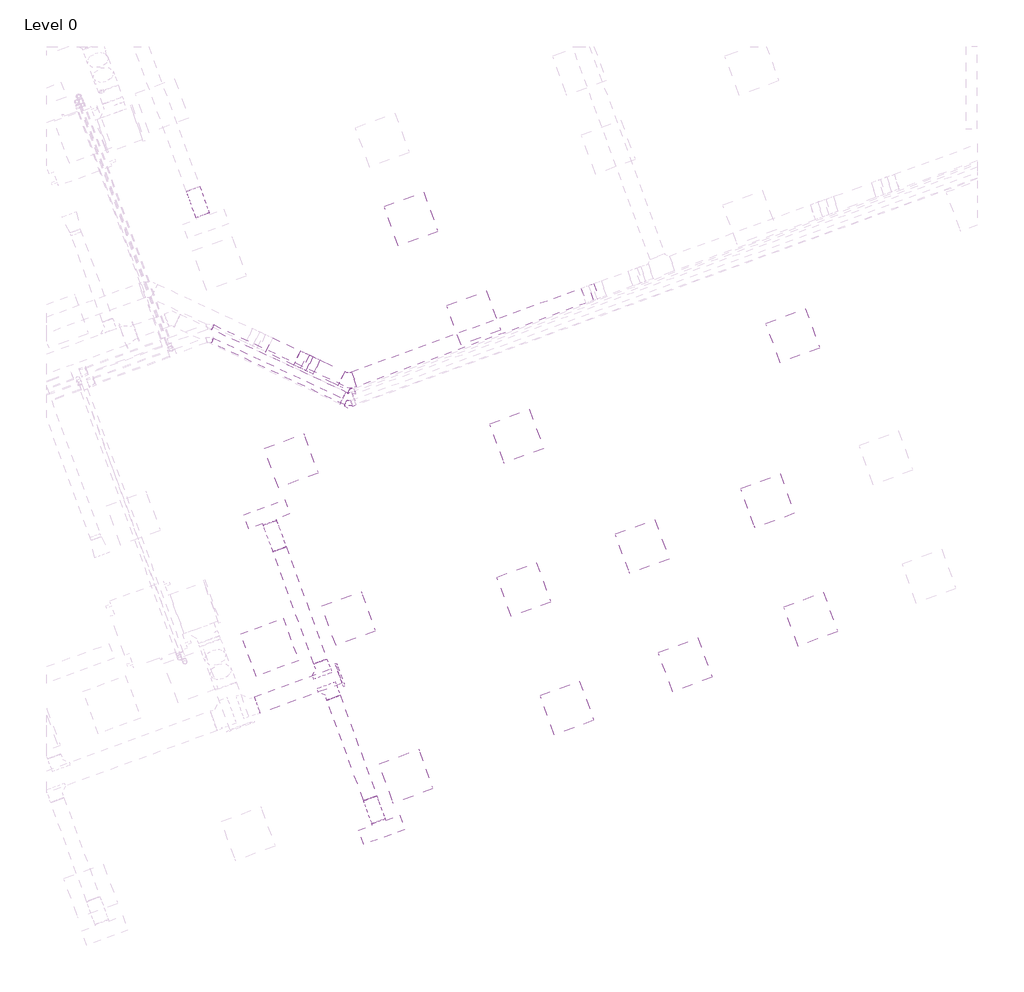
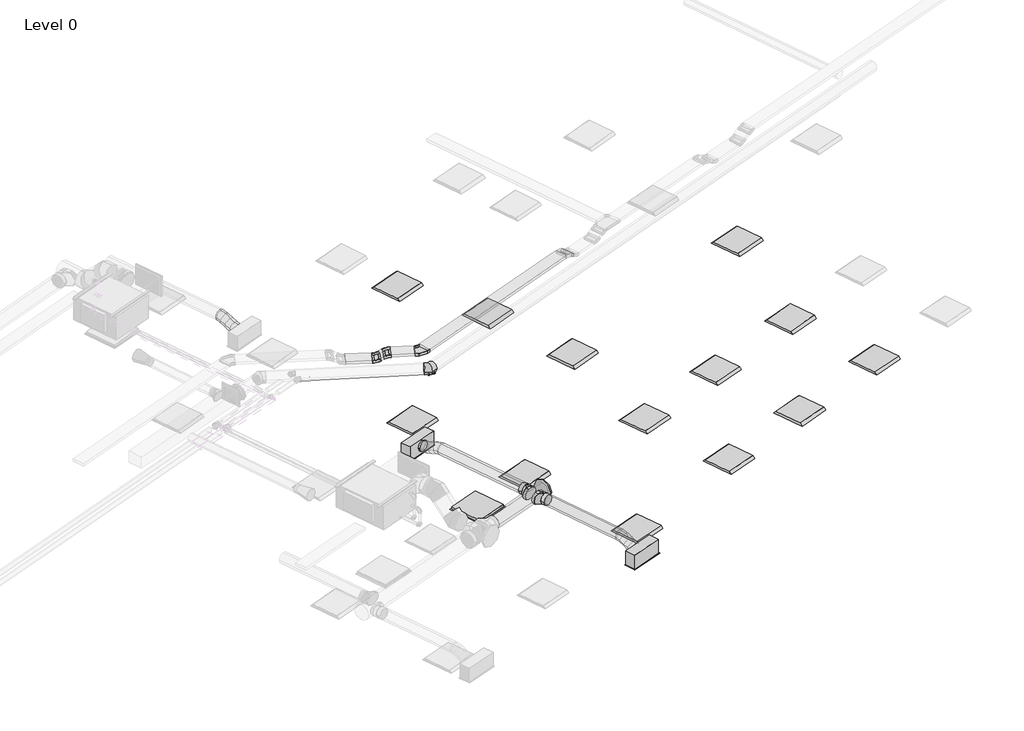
# One storey, part 27 of 34: 13 light fixtures, 6 duct segments, 5 cable carrier segments, 4 duct fittings, 3 air terminals, 3 cable carrier fittings, 2 pipe fittings, 2 pipe segments.
"""IFC4 building model written with IfcOpenShell, lengths in millimetres."""

from ifc_helpers import new_model, si_unit, point, frame, frame_2d, origin, place, context, project, spatial, polyline, circle_curve, ellipse_curve, trimmed, segment, composite_curve, outline, extrude, transform, mapped, element, save
from ifc_brep_helpers import plane_surface, cylinder_surface, advanced_brep
from components import return_grille_rectangular_hosted_standard_7b12617c, supply_diffuser_with_plenum_linear_slot_hosted_8e4f2f20, cable_tray_horizontal_bend_standard_ea848225, cable_tray_vertical_inside_bend_standard_9a66f55b, cable_tray_vertical_outside_bend_standard_4df2047e, dw144_round_blank_end_standard_9aa061e7, dw144_round_segmented_bend_slip_joint_standard_55afcd91, dw144_round_shoe_branch_slip_joint1_standard_2_559552f4, light_fixture_1c7c1157, light_fixture_b730b5ca, elbow_threaded_gmi_standard_9261818c

model = new_model("IFC4")

# Units and contexts
model_context = context("Model", 3, world=origin())
ifc_project = project(units=[si_unit("LENGTHUNIT", "METRE", prefix="MILLI")], contexts=[model_context])

# Site, building, storey
site = spatial("IfcSite", under=ifc_project)
building = spatial("IfcBuilding", under=site)
storey = spatial("IfcBuildingStorey", under=building, Name="Level 0", Elevation=0.0)

# Air terminals
placement = place(None, origin())
return_grille_rectangular_hosted_standard_shape = return_grille_rectangular_hosted_standard_7b12617c(model_context)
element("IfcAirTerminal", 1, ObjectType="Return Grille - Rectangular - Hosted : Standard", at=placement, inside=storey, context=model_context, shape_type="MappedRepresentation", body=[
    mapped(return_grille_rectangular_hosted_standard_shape, transform((48062.9940494, 9235.5167351, 2800.0), x_axis=(0.939692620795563, 0.34202014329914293, 0.0), y_axis=(0.34202014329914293, -0.939692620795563, 0.0), z_axis=(0.0, 0.0, -1.0))),
])
supply_diffuser_with_plenum_linear_slot_hosted_shape = supply_diffuser_with_plenum_linear_slot_hosted_8e4f2f20(model_context)
element("IfcAirTerminal", 2, ObjectType="Supply Diffuser with Plenum - Linear Slot - Hosted : 24\" x 8\"-200 In Inlet  4-Slot", at=placement, inside=storey, context=model_context, shape_type="MappedRepresentation", body=[
    mapped(supply_diffuser_with_plenum_linear_slot_hosted_shape, transform((49663.8644548, 6625.652594, 2800.0), x_axis=(-0.9396926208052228, -0.34202014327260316, 0.0), y_axis=(-0.34202014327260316, 0.9396926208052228, 0.0), z_axis=(0.0, 0.0, -1.0))),
])
element("IfcAirTerminal", 3, ObjectType="Supply Diffuser with Plenum - Linear Slot - Hosted : 24\" x 8\"-200 In Inlet  4-Slot", at=placement, inside=storey, context=model_context, shape_type="MappedRepresentation", body=[
    mapped(supply_diffuser_with_plenum_linear_slot_hosted_shape, transform((48022.1677671, 11136.1771739, 2800.0), x_axis=(0.939692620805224, 0.34202014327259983, 0.0), y_axis=(0.34202014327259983, -0.939692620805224, 0.0), z_axis=(0.0, 0.0, -1.0))),
])

# Cable carrier fittings
cable_tray_horizontal_bend_standard_shape = cable_tray_horizontal_bend_standard_ea848225(model_context)
element("IfcCableCarrierFitting", 4, ObjectType="Cable Tray Horizontal Bend : Standard", at=placement, inside=storey, context=model_context, shape_type="MappedRepresentation", body=[
    mapped(cable_tray_horizontal_bend_standard_shape, transform((49178.5883036, 13033.9843438, 3248.9627355), x_axis=(0.9063077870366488, -0.422618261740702, 0.0), y_axis=(0.422618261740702, 0.9063077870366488, 0.0), z_axis=(0.0, 0.0, 1.0))),
])
cable_tray_vertical_inside_bend_standard_shape = cable_tray_vertical_inside_bend_standard_9a66f55b(model_context)
element("IfcCableCarrierFitting", 5, ObjectType="Cable Tray Vertical Inside Bend : Standard", at=placement, inside=storey, context=model_context, shape_type="MappedRepresentation", body=[
    mapped(cable_tray_vertical_inside_bend_standard_shape, transform((48516.9257607, 13342.5226547, 3148.9627355), x_axis=(0.9063077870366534, -0.42261826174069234, 0.0), y_axis=(0.0, 0.0, 1.0000000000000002), z_axis=(-0.42261826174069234, -0.9063077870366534, 0.0))),
])
cable_tray_vertical_outside_bend_standard_shape = cable_tray_vertical_outside_bend_standard_4df2047e(model_context)
element("IfcCableCarrierFitting", 6, ObjectType="Cable Tray Vertical Outside Bend : Standard", at=placement, inside=storey, context=model_context, shape_type="MappedRepresentation", body=[
    mapped(cable_tray_vertical_outside_bend_standard_shape, transform((48673.9028741, 13269.3230245, 3248.9627355), x_axis=(-0.9063077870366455, 0.42261826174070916, 0.0), y_axis=(0.0, 0.0, -1.0), z_axis=(-0.42261826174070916, -0.9063077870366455, 0.0))),
])

# Cable carrier segments
element("IfcCableCarrierSegment", 7, ObjectType="Perforated Cable Tray", at=placement, inside=storey, context=model_context, shape_type="SweptSolid", body=[
    extrude(outline(polyline([(48687.0694296, 13139.053343), (48782.1585385, 13342.9725951), (49136.974176, 13177.519346), (49041.8850671, 12973.600094), (48687.0694296, 13139.053343)])), frame((0.0, 0.0, 3223.9627355), z_axis=(0.0, 0.0, 1.0), x_axis=(1.0, 0.0, 0.0)), (0.0, 0.0, 1.0), 50.0),
])
element("IfcCableCarrierSegment", 8, ObjectType="Perforated Cable Tray", at=placement, inside=storey, context=model_context, shape_type="SweptSolid", body=[
    extrude(outline(polyline([(48010.1156409, 13454.7220789), (48105.2047498, 13658.6413309), (48503.7592052, 13472.7923362), (48408.6700963, 13268.8730841), (48010.1156409, 13454.7220789)])), frame((0.0, 0.0, 3123.9627355), z_axis=(0.0, 0.0, 1.0), x_axis=(1.0, 0.0, 0.0)), (0.0, 0.0, 1.0), 50.0),
])
element("IfcCableCarrierSegment", 9, ObjectType="Perforated Cable Tray", at=placement, inside=storey, context=model_context, shape_type="SweptSolid", body=[
    extrude(outline(polyline([(0.0, -225.0), (0.0, 0.0), (66.0254038, 0.0), (66.0254038, -225.0), (0.0, -225.0)])), frame((48585.1098035, 13186.5978974, 3193.8184513), z_axis=(-0.4531538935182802, 0.21130913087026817, 0.8660254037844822), x_axis=(-0.7848855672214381, 0.3659981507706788, -0.49999999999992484)), (0.0, 0.0, 1.0), 50.0),
])
element("IfcCableCarrierSegment", 10, ObjectType="Perforated Cable Tray", at=placement, inside=storey, context=model_context, shape_type="SweptSolid", body=[
    extrude(outline(polyline([(49309.5085089, 12961.9154021), (49232.5539766, 13173.3462418), (52512.3328011, 14367.0881089), (52589.2873334, 14155.6572692), (49309.5085089, 12961.9154021)])), frame((0.0, 0.0, 3223.9627355), z_axis=(0.0, 0.0, 1.0), x_axis=(1.0, 0.0, 0.0)), (0.0, 0.0, 1.0), 50.0),
])
element("IfcCableCarrierSegment", 11, ObjectType="Perforated Cable Tray", at=placement, inside=storey, context=model_context, shape_type="SweptSolid", body=[
    extrude(outline(polyline([(1e-07, -224.9999999), (0.0, 0.0), (66.0254039, 0.0), (66.0254038, -225.0), (1e-07, -224.9999999)])), frame((52618.0482209, 14405.565375, 3193.8184513), z_axis=(0.46984631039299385, 0.17101007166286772, 0.8660254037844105), x_axis=(0.8137976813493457, 0.2961981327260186, -0.5000000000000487)), (0.0, 0.0, 1.0), 50.0),
])

# Duct fittings
dw144_round_blank_end_standard_shape = dw144_round_blank_end_standard_9aa061e7(model_context)
element("IfcDuctFitting", 12, ObjectType="DW144 Round Blank End : Standard", at=placement, inside=storey, context=model_context, shape_type="MappedRepresentation", body=[
    mapped(dw144_round_blank_end_standard_shape, transform((49058.6014923, 8836.976268, 3072.2088531), x_axis=(0.9396926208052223, 0.3420201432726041, 0.0), y_axis=(-0.3420201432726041, 0.9396926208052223, 0.0), z_axis=(0.0, 0.0, 1.0))),
])
dw144_round_segmented_bend_slip_joint_standard_shape = dw144_round_segmented_bend_slip_joint_standard_55afcd91(model_context)
element("IfcDuctFitting", 13, ObjectType="DW144 Round Segmented Bend - Slip Joint : Standard", at=placement, inside=storey, context=model_context, shape_type="MappedRepresentation", body=[
    mapped(dw144_round_segmented_bend_slip_joint_standard_shape, transform((49186.9042916, 12762.9479037, 3050.0), x_axis=(0.9063077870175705, -0.42261826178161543, 0.0), y_axis=(0.42261826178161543, 0.9063077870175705, 0.0), z_axis=(0.0, 0.0, 1.0))),
])
dw144_round_shoe_branch_slip_joint1_standard_2_shape = dw144_round_shoe_branch_slip_joint1_standard_2_559552f4(model_context)
element("IfcDuctFitting", 14, ObjectType="DW144 Round Shoe Branch - Slip Joint1 : Standard 2", at=placement, inside=storey, context=model_context, shape_type="MappedRepresentation", body=[
    mapped(dw144_round_shoe_branch_slip_joint1_standard_2_shape, transform((48925.1089268, 8655.3667261, 3072.2088531), x_axis=(0.34202014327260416, -0.9396926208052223, 0.0), y_axis=(-0.9396926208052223, -0.34202014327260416, 0.0), z_axis=(0.0, 0.0, -1.0))),
])
element("IfcDuctFitting", 15, ObjectType="DW144 Round Shoe Branch - Slip Joint1 : Standard 2", at=placement, inside=storey, context=model_context, shape_type="MappedRepresentation", body=[
    mapped(dw144_round_shoe_branch_slip_joint1_standard_2_shape, transform((48839.603891, 8890.2898813, 3072.2088531), x_axis=(-0.34202014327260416, 0.9396926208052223, 0.0), y_axis=(-0.9396926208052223, -0.34202014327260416, 0.0), z_axis=(0.0, 0.0, 1.0))),
])

# Duct segments
element("IfcDuctSegment", 16, ObjectType="DW144 Segmented Bend / Shoe Branch", at=placement, inside=storey, context=model_context, shape_type="SweptSolid", body=[
    extrude(outline(composite_curve([segment(trimmed(circle_curve(frame_2d((0.0, 125.0)), 125.0), [point((125.0, 125.0))], [point((0.0, 0.0))], False, "CARTESIAN"), True, "CONTINUOUS"), segment(trimmed(circle_curve(frame_2d((0.0, 125.0)), 125.0), [point((0.0, 0.0))], [point((-125.0, 125.0))], False, "CARTESIAN"), True, "CONTINUOUS"), segment(trimmed(circle_curve(frame_2d((0.0, 125.0)), 125.0), [point((-125.0, 125.0))], [point((0.0, 250.0))], False, "CARTESIAN"), True, "CONTINUOUS"), segment(trimmed(circle_curve(frame_2d((0.0, 125.0)), 125.0), [point((0.0, 250.0))], [point((125.0, 125.0))], False, "CARTESIAN"), True, "CONTINUOUS")], self_intersect=False)), frame((47888.1158529, 8410.9543357, 3197.2088531), z_axis=(0.9396926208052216, 0.34202014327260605, 0.0), x_axis=(0.34202014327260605, -0.9396926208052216, 0.0)), (0.0, 0.0, 1.0), 1245.6048004),
])
element("IfcDuctSegment", 17, ObjectType="DW144 Segmented Bend / Shoe Branch", at=placement, inside=storey, context=model_context, shape_type="SweptSolid", body=[
    extrude(outline(composite_curve([segment(trimmed(circle_curve(frame_2d((0.0, -100.0)), 100.0), [point((-100.0, -100.0))], [point((0.0, 0.0))], False, "CARTESIAN"), True, "CONTINUOUS"), segment(trimmed(circle_curve(frame_2d((0.0, -100.0)), 100.0), [point((0.0, 0.0))], [point((99.9999999, -100.0))], False, "CARTESIAN"), True, "CONTINUOUS"), segment(trimmed(circle_curve(frame_2d((0.0, -100.0)), 100.0), [point((99.9999999, -100.0))], [point((0.0, -200.0))], False, "CARTESIAN"), True, "CONTINUOUS"), segment(trimmed(circle_curve(frame_2d((0.0, -100.0)), 100.0), [point((0.0, -200.0))], [point((-100.0, -100.0))], False, "CARTESIAN"), True, "CONTINUOUS")], self_intersect=False)), frame((49500.2755983, 7075.1092836, 2972.2088531), z_axis=(-0.3420201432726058, 0.9396926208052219, 0.0), x_axis=(0.9396926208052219, 0.3420201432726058, 0.0)), (0.0, 0.0, 1.0), 1531.674845),
])
element("IfcDuctSegment", 18, ObjectType="DW144 Segmented Bend / Shoe Branch", at=placement, inside=storey, context=model_context, shape_type="SweptSolid", body=[
    extrude(outline(composite_curve([segment(trimmed(circle_curve(frame_2d((0.0, 100.0)), 100.0), [point((100.0, 100.0))], [point((0.0, 0.0))], False, "CARTESIAN"), True, "CONTINUOUS"), segment(trimmed(circle_curve(frame_2d((0.0, 100.0)), 100.0), [point((0.0, 0.0))], [point((-100.0, 100.0))], False, "CARTESIAN"), True, "CONTINUOUS"), segment(trimmed(circle_curve(frame_2d((0.0, 100.0)), 100.0), [point((-100.0, 100.0))], [point((0.0, 200.0))], False, "CARTESIAN"), True, "CONTINUOUS"), segment(trimmed(circle_curve(frame_2d((0.0, 100.0)), 100.0), [point((0.0, 200.0))], [point((100.0, 100.0))], False, "CARTESIAN"), True, "CONTINUOUS")], self_intersect=False)), frame((48788.3008695, 9031.2437744, 3172.2088531), z_axis=(-0.34202014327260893, 0.9396926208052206, 0.0), x_axis=(0.9396926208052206, 0.34202014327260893, 0.0)), (0.0, 0.0, 1.0), 1708.325155),
])
element("IfcDuctSegment", 19, ObjectType="Flex - Round", at=placement, inside=storey, context=model_context, shape_type="AdvancedBrep", body=[
    advanced_brep(
    [(47061.6165117, 15821.9331388, 3072.2088531), (46967.6472496, 15787.7311245, 2972.2088531), (46873.6779876, 15753.5291101, 3072.2088531), (46967.6472496, 15787.7311245, 3172.2088531), (47067.6745305, 15805.2888691, 3072.2088531), (46970.0260707, 15781.1953673, 2972.2088531), (46879.7360063, 15736.8848404, 3072.2088531), (46977.3844661, 15760.9783422, 3172.2088531), (47199.3816034, 15443.4266602, 2954.4), (47105.4123413, 15409.2246459, 3054.4), (47011.4430792, 15375.0226316, 2954.4), (47105.4123413, 15409.2246459, 2854.4), (47096.5988606, 15725.8199253, 3053.8012198), (46992.4480266, 15719.5915499, 2957.9393734), (46908.6603364, 15657.4158966, 3053.8012198), (47012.8111704, 15663.644272, 3149.6630662), (47130.4990576, 15632.6798995, 3013.3044266), (47023.5938265, 15634.0191678, 2920.7329518), (46942.5605334, 15564.2758709, 3013.3044266), (47049.4657644, 15562.9366026, 3105.8759013), (47164.3992546, 15539.5398738, 2972.8076333), (47060.2484206, 15533.3114984, 2876.9457869), (46976.4607304, 15471.1358451, 2972.8076333), (47080.6115644, 15477.3642205, 3068.6694797), (47193.3235846, 15460.07093, 2954.4), (47095.6751249, 15435.9774282, 2854.4), (47005.3850605, 15391.6669013, 2954.4), (47103.0335202, 15415.7604031, 3054.4)],
    [
        (0, 1, circle_curve(frame((46967.6472496, 15787.7311245, 3072.2088531), z_axis=(-0.3420201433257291, 0.9396926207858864, 0.0), x_axis=(0.9396926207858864, 0.3420201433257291, 0.0)), 100.0)),
        (1, 2, circle_curve(frame((46967.6472496, 15787.7311245, 3072.2088531), z_axis=(-0.3420201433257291, 0.9396926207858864, 0.0), x_axis=(0.9396926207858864, 0.3420201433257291, 0.0)), 100.0)),
        (2, 3, circle_curve(frame((46967.6472496, 15787.7311245, 3072.2088531), z_axis=(-0.3420201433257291, 0.9396926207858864, 0.0), x_axis=(0.9396926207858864, 0.3420201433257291, 0.0)), 100.0)),
        (3, 0, circle_curve(frame((46967.6472496, 15787.7311245, 3072.2088531), z_axis=(-0.3420201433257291, 0.9396926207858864, 0.0), x_axis=(0.9396926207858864, 0.3420201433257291, 0.0)), 100.0)),
        (0, 4),
        (4, 5, ellipse_curve(frame((46973.7052684, 15771.0868547, 3072.2088531), z_axis=(-0.34005825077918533, 0.9343023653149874, 0.1069554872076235), x_axis=(-0.03658093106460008, 0.10050528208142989, -0.9942638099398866)), 100.5769284, 100.0)),
        (5, 1),
        (5, 6, ellipse_curve(frame((46973.7052684, 15771.0868547, 3072.2088531), z_axis=(-0.34005825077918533, 0.9343023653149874, 0.1069554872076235), x_axis=(-0.03658093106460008, 0.10050528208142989, -0.9942638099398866)), 100.5769284, 100.0)),
        (6, 2),
        (6, 7, ellipse_curve(frame((46973.7052684, 15771.0868547, 3072.2088531), z_axis=(-0.34005825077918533, 0.9343023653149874, 0.1069554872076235), x_axis=(-0.03658093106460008, 0.10050528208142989, -0.9942638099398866)), 100.5769284, 100.0)),
        (7, 3),
        (7, 4, ellipse_curve(frame((46973.7052684, 15771.0868547, 3072.2088531), z_axis=(-0.34005825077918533, 0.9343023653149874, 0.1069554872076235), x_axis=(-0.03658093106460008, 0.10050528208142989, -0.9942638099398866)), 100.5769284, 100.0)),
        (8, 9, circle_curve(frame((47105.4123413, 15409.2246459, 2954.4), z_axis=(0.34202014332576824, -0.9396926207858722, 0.0), x_axis=(0.9396926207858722, 0.34202014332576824, 0.0)), 100.0)),
        (9, 10, circle_curve(frame((47105.4123413, 15409.2246459, 2954.4), z_axis=(0.34202014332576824, -0.9396926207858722, 0.0), x_axis=(0.9396926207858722, 0.34202014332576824, 0.0)), 100.0)),
        (10, 11, circle_curve(frame((47105.4123413, 15409.2246459, 2954.4), z_axis=(0.34202014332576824, -0.9396926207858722, 0.0), x_axis=(0.9396926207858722, 0.34202014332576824, 0.0)), 100.0)),
        (11, 8, circle_curve(frame((47105.4123413, 15409.2246459, 2954.4), z_axis=(0.34202014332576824, -0.9396926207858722, 0.0), x_axis=(0.9396926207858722, 0.34202014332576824, 0.0)), 100.0)),
        (4, 12),
        (12, 13, ellipse_curve(frame((47002.6295985, 15691.617911, 3053.8012198), z_axis=(-0.3266331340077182, 0.8974171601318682, 0.29656910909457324), x_axis=(-0.10143260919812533, 0.27868380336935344, -0.955011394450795)), 100.3776991, 100.0)),
        (13, 5),
        (13, 14, ellipse_curve(frame((47002.6295985, 15691.617911, 3053.8012198), z_axis=(-0.3266331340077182, 0.8974171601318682, 0.29656910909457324), x_axis=(-0.10143260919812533, 0.27868380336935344, -0.955011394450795)), 100.3776991, 100.0)),
        (14, 6),
        (14, 15, ellipse_curve(frame((47002.6295985, 15691.617911, 3053.8012198), z_axis=(-0.3266331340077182, 0.8974171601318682, 0.29656910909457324), x_axis=(-0.10143260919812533, 0.27868380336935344, -0.955011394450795)), 100.3776991, 100.0)),
        (15, 7),
        (15, 12, ellipse_curve(frame((47002.6295985, 15691.617911, 3053.8012198), z_axis=(-0.3266331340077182, 0.8974171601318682, 0.29656910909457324), x_axis=(-0.10143260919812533, 0.27868380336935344, -0.955011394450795)), 100.3776991, 100.0)),
        (12, 16),
        (16, 17, circle_curve(frame((47036.5297955, 15598.4778852, 3013.3044266), z_axis=(-0.31661309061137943, 0.8698873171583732, 0.3782224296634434), x_axis=(0.9396926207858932, 0.34202014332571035, 0.0)), 100.0)),
        (17, 13),
        (17, 18, circle_curve(frame((47036.5297955, 15598.4778852, 3013.3044266), z_axis=(-0.31661309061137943, 0.8698873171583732, 0.3782224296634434), x_axis=(0.9396926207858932, 0.34202014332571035, 0.0)), 100.0)),
        (18, 14),
        (18, 19, circle_curve(frame((47036.5297955, 15598.4778852, 3013.3044266), z_axis=(-0.31661309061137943, 0.8698873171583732, 0.3782224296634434), x_axis=(0.9396926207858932, 0.34202014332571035, 0.0)), 100.0)),
        (19, 15),
        (19, 16, circle_curve(frame((47036.5297955, 15598.4778852, 3013.3044266), z_axis=(-0.31661309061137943, 0.8698873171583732, 0.3782224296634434), x_axis=(0.9396926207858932, 0.34202014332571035, 0.0)), 100.0)),
        (16, 20),
        (20, 21, ellipse_curve(frame((47070.4299925, 15505.3378594, 2972.8076333), z_axis=(-0.32663313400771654, 0.8974171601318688, 0.2965691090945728), x_axis=(0.10143260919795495, -0.27868380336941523, 0.9550113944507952)), 100.3776991, 100.0)),
        (21, 17),
        (21, 22, ellipse_curve(frame((47070.4299925, 15505.3378594, 2972.8076333), z_axis=(-0.32663313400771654, 0.8974171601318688, 0.2965691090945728), x_axis=(0.10143260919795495, -0.27868380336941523, 0.9550113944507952)), 100.3776991, 100.0)),
        (22, 18),
        (22, 23, ellipse_curve(frame((47070.4299925, 15505.3378594, 2972.8076333), z_axis=(-0.32663313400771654, 0.8974171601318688, 0.2965691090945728), x_axis=(0.10143260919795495, -0.27868380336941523, 0.9550113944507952)), 100.3776991, 100.0)),
        (23, 19),
        (23, 20, ellipse_curve(frame((47070.4299925, 15505.3378594, 2972.8076333), z_axis=(-0.32663313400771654, 0.8974171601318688, 0.2965691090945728), x_axis=(0.10143260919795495, -0.27868380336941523, 0.9550113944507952)), 100.3776991, 100.0)),
        (20, 24),
        (24, 25, ellipse_curve(frame((47099.3543226, 15425.8689156, 2954.4), z_axis=(-0.340058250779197, 0.9343023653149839, 0.10695548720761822), x_axis=(0.03658093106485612, -0.10050528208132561, 0.9942638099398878)), 100.5769284, 100.0)),
        (25, 21),
        (25, 26, ellipse_curve(frame((47099.3543226, 15425.8689156, 2954.4), z_axis=(-0.340058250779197, 0.9343023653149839, 0.10695548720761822), x_axis=(0.03658093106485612, -0.10050528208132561, 0.9942638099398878)), 100.5769284, 100.0)),
        (26, 22),
        (26, 27, ellipse_curve(frame((47099.3543226, 15425.8689156, 2954.4), z_axis=(-0.340058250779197, 0.9343023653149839, 0.10695548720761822), x_axis=(0.03658093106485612, -0.10050528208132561, 0.9942638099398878)), 100.5769284, 100.0)),
        (27, 23),
        (27, 24, ellipse_curve(frame((47099.3543226, 15425.8689156, 2954.4), z_axis=(-0.340058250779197, 0.9343023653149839, 0.10695548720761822), x_axis=(0.03658093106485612, -0.10050528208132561, 0.9942638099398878)), 100.5769284, 100.0)),
        (24, 8),
        (11, 25),
        (10, 26),
        (9, 27),
    ],
    [
        plane_surface(frame((46967.6472496, 15787.7311245, 2972.2088531), z_axis=(-0.3420201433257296, 0.9396926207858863, 0.0), x_axis=(0.9396926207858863, 0.3420201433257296, 0.0))),
        cylinder_surface(frame((46967.6472496, 15787.7311245, 3072.2088531), z_axis=(-0.3420201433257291, 0.9396926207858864, 0.0), x_axis=(0.9396926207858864, 0.3420201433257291, 0.0)), 100.0),
        plane_surface(frame((47105.4123413, 15409.2246459, 2854.4), z_axis=(0.3420201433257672, -0.9396926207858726, 0.0), x_axis=(0.9396926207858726, 0.3420201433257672, 0.0))),
        cylinder_surface(frame((46973.7052684, 15771.0868547, 3072.2088531), z_axis=(-0.3341950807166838, 0.9181934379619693, 0.21268394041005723), x_axis=(0.9396926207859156, 0.342020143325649, 0.0)), 100.0),
        cylinder_surface(frame((47002.6295985, 15691.617911, 3053.8012198), z_axis=(-0.31661309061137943, 0.8698873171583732, 0.3782224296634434), x_axis=(0.9396926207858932, 0.34202014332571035, 0.0)), 100.0),
        cylinder_surface(frame((47036.5297955, 15598.4778852, 3013.3044266), z_axis=(-0.31661309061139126, 0.8698873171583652, 0.3782224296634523), x_axis=(0.939692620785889, 0.3420201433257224, 0.0)), 100.0),
        cylinder_surface(frame((47070.4299925, 15505.3378594, 2972.8076333), z_axis=(-0.33419508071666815, 0.9181934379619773, 0.21268394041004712), x_axis=(0.9396926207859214, 0.3420201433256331, 0.0)), 100.0),
        cylinder_surface(frame((47099.3543226, 15425.8689156, 2954.4), z_axis=(-0.34202014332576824, 0.9396926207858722, 0.0), x_axis=(0.9396926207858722, 0.34202014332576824, 0.0)), 100.0),
    ],
    [
        (0, [[1, 2, 3, 4]]),
        (1, [[-1, 5, 6, 7]]),
        (1, [[-2, -7, 8, 9]]),
        (1, [[-3, -9, 10, 11]]),
        (1, [[-4, -11, 12, -5]]),
        (2, [[13, 14, 15, 16]]),
        (3, [[-6, 17, 18, 19]]),
        (3, [[-8, -19, 20, 21]]),
        (3, [[-10, -21, 22, 23]]),
        (3, [[-12, -23, 24, -17]]),
        (4, [[-18, 25, 26, 27]]),
        (4, [[-20, -27, 28, 29]]),
        (4, [[-22, -29, 30, 31]]),
        (4, [[-24, -31, 32, -25]]),
        (5, [[-26, 33, 34, 35]]),
        (5, [[-28, -35, 36, 37]]),
        (5, [[-30, -37, 38, 39]]),
        (5, [[-32, -39, 40, -33]]),
        (6, [[-34, 41, 42, 43]]),
        (6, [[-36, -43, 44, 45]]),
        (6, [[-38, -45, 46, 47]]),
        (6, [[-40, -47, 48, -41]]),
        (7, [[-42, 49, -16, 50]]),
        (7, [[-44, -50, -15, 51]]),
        (7, [[-46, -51, -14, 52]]),
        (7, [[-48, -52, -13, -49]]),
    ],
),
])
element("IfcDuctSegment", 20, ObjectType="Flex - Round", at=placement, inside=storey, context=model_context, shape_type="AdvancedBrep", body=[
    advanced_brep(
    [(49594.2448603, 7109.3112979, 3072.2088531), (49500.2755983, 7075.1092836, 2972.2088531), (49406.3063362, 7040.9072693, 3072.2088531), (49500.2755983, 7075.1092836, 3172.2088531), (49601.1600626, 7090.3119359, 3072.2088531), (49502.7035033, 7068.4386693, 2972.2088531), (49413.2215384, 7021.9079072, 3072.2088531), (49511.6780977, 7043.7811738, 3172.2088531), (49713.7473205, 6780.9809871, 2954.4), (49619.7780584, 6746.7789728, 3054.4), (49525.8087963, 6712.5769585, 2954.4), (49619.7780584, 6746.7789728, 2854.4), (49624.7401671, 7025.5261313, 3053.8012198), (49518.9451378, 7023.8151453, 2959.5299419), (49436.8016429, 6957.1221026, 3053.8012198), (49542.5966722, 6958.8330886, 3148.0724978), (49653.9960904, 6945.1461425, 3013.3044266), (49545.3917563, 6951.1536582, 2922.9218599), (49466.0575662, 6876.7421139, 3013.3044266), (49574.6619004, 6870.7345982, 3103.6869932), (49683.2520137, 6864.7661538, 2972.8076333), (49577.4569845, 6863.0551678, 2878.5363553), (49495.3134896, 6796.3621251, 2972.8076333), (49601.1085188, 6798.0731111, 3067.0789113), (49706.8321182, 6799.9803492, 2954.4), (49608.3755589, 6778.1070826, 2854.4), (49518.893594, 6731.5763205, 2954.4), (49617.3501533, 6753.4495871, 3054.4)],
    [
        (0, 1, circle_curve(frame((49500.2755983, 7075.1092836, 3072.2088531), z_axis=(-0.3420201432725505, 0.9396926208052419, 0.0), x_axis=(0.9396926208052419, 0.3420201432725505, 0.0)), 100.0)),
        (1, 2, circle_curve(frame((49500.2755983, 7075.1092836, 3072.2088531), z_axis=(-0.3420201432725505, 0.9396926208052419, 0.0), x_axis=(0.9396926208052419, 0.3420201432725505, 0.0)), 100.0)),
        (2, 3, circle_curve(frame((49500.2755983, 7075.1092836, 3072.2088531), z_axis=(-0.3420201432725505, 0.9396926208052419, 0.0), x_axis=(0.9396926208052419, 0.3420201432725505, 0.0)), 100.0)),
        (3, 0, circle_curve(frame((49500.2755983, 7075.1092836, 3072.2088531), z_axis=(-0.3420201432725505, 0.9396926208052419, 0.0), x_axis=(0.9396926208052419, 0.3420201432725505, 0.0)), 100.0)),
        (0, 4),
        (4, 5, ellipse_curve(frame((49507.1908005, 7056.1099216, 3072.2088531), z_axis=(-0.339113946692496, 0.9317079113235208, 0.13008496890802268), x_axis=(-0.04449167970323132, 0.12223988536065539, -0.9915028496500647)), 100.8569971, 100.0)),
        (5, 1),
        (5, 6, ellipse_curve(frame((49507.1908005, 7056.1099216, 3072.2088531), z_axis=(-0.339113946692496, 0.9317079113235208, 0.13008496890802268), x_axis=(-0.04449167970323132, 0.12223988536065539, -0.9915028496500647)), 100.8569971, 100.0)),
        (6, 2),
        (6, 7, ellipse_curve(frame((49507.1908005, 7056.1099216, 3072.2088531), z_axis=(-0.339113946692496, 0.9317079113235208, 0.13008496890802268), x_axis=(-0.04449167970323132, 0.12223988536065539, -0.9915028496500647)), 100.8569971, 100.0)),
        (7, 3),
        (7, 4, ellipse_curve(frame((49507.1908005, 7056.1099216, 3072.2088531), z_axis=(-0.339113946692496, 0.9317079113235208, 0.13008496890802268), x_axis=(-0.04449167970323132, 0.12223988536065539, -0.9915028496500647)), 100.8569971, 100.0)),
        (8, 9, circle_curve(frame((49619.7780584, 6746.7789728, 2954.4), z_axis=(0.3420201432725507, -0.9396926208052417, 0.0), x_axis=(0.9396926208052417, 0.3420201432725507, 0.0)), 100.0)),
        (9, 10, circle_curve(frame((49619.7780584, 6746.7789728, 2954.4), z_axis=(0.3420201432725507, -0.9396926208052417, 0.0), x_axis=(0.9396926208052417, 0.3420201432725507, 0.0)), 100.0)),
        (10, 11, circle_curve(frame((49619.7780584, 6746.7789728, 2954.4), z_axis=(0.3420201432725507, -0.9396926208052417, 0.0), x_axis=(0.9396926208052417, 0.3420201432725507, 0.0)), 100.0)),
        (11, 8, circle_curve(frame((49619.7780584, 6746.7789728, 2954.4), z_axis=(0.3420201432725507, -0.9396926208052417, 0.0), x_axis=(0.9396926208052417, 0.3420201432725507, 0.0)), 100.0)),
        (4, 12),
        (12, 13, ellipse_curve(frame((49530.770905, 6991.324117, 3053.8012198), z_axis=(-0.3211034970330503, 0.8822246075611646, 0.3443432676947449), x_axis=(-0.11777233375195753, 0.32357682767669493, -0.938843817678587)), 100.4120986, 100.0)),
        (13, 5),
        (13, 14, ellipse_curve(frame((49530.770905, 6991.324117, 3053.8012198), z_axis=(-0.3211034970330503, 0.8822246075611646, 0.3443432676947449), x_axis=(-0.11777233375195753, 0.32357682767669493, -0.938843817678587)), 100.4120986, 100.0)),
        (14, 6),
        (14, 15, ellipse_curve(frame((49530.770905, 6991.324117, 3053.8012198), z_axis=(-0.3211034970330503, 0.8822246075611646, 0.3443432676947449), x_axis=(-0.11777233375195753, 0.32357682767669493, -0.938843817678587)), 100.4120986, 100.0)),
        (15, 7),
        (15, 12, ellipse_curve(frame((49530.770905, 6991.324117, 3053.8012198), z_axis=(-0.3211034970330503, 0.8822246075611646, 0.3443432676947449), x_axis=(-0.11777233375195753, 0.32357682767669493, -0.938843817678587)), 100.4120986, 100.0)),
        (12, 16),
        (16, 17, circle_curve(frame((49560.0268283, 6910.9441282, 3013.3044266), z_axis=(-0.3091265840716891, 0.8493183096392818, 0.4279008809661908), x_axis=(0.9396926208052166, 0.3420201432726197, 0.0)), 100.0)),
        (17, 13),
        (17, 18, circle_curve(frame((49560.0268283, 6910.9441282, 3013.3044266), z_axis=(-0.3091265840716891, 0.8493183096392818, 0.4279008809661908), x_axis=(0.9396926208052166, 0.3420201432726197, 0.0)), 100.0)),
        (18, 14),
        (18, 19, circle_curve(frame((49560.0268283, 6910.9441282, 3013.3044266), z_axis=(-0.3091265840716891, 0.8493183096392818, 0.4279008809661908), x_axis=(0.9396926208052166, 0.3420201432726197, 0.0)), 100.0)),
        (19, 15),
        (19, 16, circle_curve(frame((49560.0268283, 6910.9441282, 3013.3044266), z_axis=(-0.3091265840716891, 0.8493183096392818, 0.4279008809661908), x_axis=(0.9396926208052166, 0.3420201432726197, 0.0)), 100.0)),
        (16, 20),
        (20, 21, ellipse_curve(frame((49589.2827517, 6830.5641395, 2972.8076333), z_axis=(-0.32110349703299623, 0.8822246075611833, 0.34434326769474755), x_axis=(0.11777233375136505, -0.3235768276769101, 0.9388438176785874)), 100.4120986, 100.0)),
        (21, 17),
        (21, 22, ellipse_curve(frame((49589.2827517, 6830.5641395, 2972.8076333), z_axis=(-0.32110349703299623, 0.8822246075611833, 0.34434326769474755), x_axis=(0.11777233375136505, -0.3235768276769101, 0.9388438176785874)), 100.4120986, 100.0)),
        (22, 18),
        (22, 23, ellipse_curve(frame((49589.2827517, 6830.5641395, 2972.8076333), z_axis=(-0.32110349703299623, 0.8822246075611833, 0.34434326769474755), x_axis=(0.11777233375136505, -0.3235768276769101, 0.9388438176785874)), 100.4120986, 100.0)),
        (23, 19),
        (23, 20, ellipse_curve(frame((49589.2827517, 6830.5641395, 2972.8076333), z_axis=(-0.32110349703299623, 0.8822246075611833, 0.34434326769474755), x_axis=(0.11777233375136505, -0.3235768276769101, 0.9388438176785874)), 100.4120986, 100.0)),
        (20, 24),
        (24, 25, ellipse_curve(frame((49612.8628561, 6765.7783348, 2954.4), z_axis=(-0.3391139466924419, 0.9317079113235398, 0.13008496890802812), x_axis=(0.04449167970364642, -0.1222398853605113, 0.9915028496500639)), 100.8569971, 100.0)),
        (25, 21),
        (25, 26, ellipse_curve(frame((49612.8628561, 6765.7783348, 2954.4), z_axis=(-0.3391139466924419, 0.9317079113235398, 0.13008496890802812), x_axis=(0.04449167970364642, -0.1222398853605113, 0.9915028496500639)), 100.8569971, 100.0)),
        (26, 22),
        (26, 27, ellipse_curve(frame((49612.8628561, 6765.7783348, 2954.4), z_axis=(-0.3391139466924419, 0.9317079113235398, 0.13008496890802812), x_axis=(0.04449167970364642, -0.1222398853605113, 0.9915028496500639)), 100.8569971, 100.0)),
        (27, 23),
        (27, 24, ellipse_curve(frame((49612.8628561, 6765.7783348, 2954.4), z_axis=(-0.3391139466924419, 0.9317079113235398, 0.13008496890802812), x_axis=(0.04449167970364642, -0.1222398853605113, 0.9915028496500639)), 100.8569971, 100.0)),
        (24, 8),
        (11, 25),
        (10, 26),
        (9, 27),
    ],
    [
        plane_surface(frame((49500.2755983, 7075.1092836, 2972.2088531), z_axis=(-0.3420201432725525, 0.9396926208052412, 0.0), x_axis=(0.9396926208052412, 0.3420201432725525, 0.0))),
        cylinder_surface(frame((49500.2755983, 7075.1092836, 3072.2088531), z_axis=(-0.3420201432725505, 0.9396926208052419, 0.0), x_axis=(0.9396926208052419, 0.3420201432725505, 0.0)), 100.0),
        plane_surface(frame((49619.7780584, 6746.7789728, 2854.4), z_axis=(0.3420201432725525, -0.9396926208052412, 0.0), x_axis=(0.9396926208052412, 0.3420201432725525, 0.0))),
        cylinder_surface(frame((49507.1908005, 7056.1099216, 3072.2088531), z_axis=(-0.3304447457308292, 0.9078894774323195, 0.25795923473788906), x_axis=(0.9396926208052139, 0.3420201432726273, 0.0)), 100.0),
        cylinder_surface(frame((49530.770905, 6991.324117, 3053.8012198), z_axis=(-0.3091265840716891, 0.8493183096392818, 0.4279008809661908), x_axis=(0.9396926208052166, 0.3420201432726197, 0.0)), 100.0),
        cylinder_surface(frame((49560.0268283, 6910.9441282, 3013.3044266), z_axis=(-0.30912658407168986, 0.8493183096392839, 0.42790088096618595), x_axis=(0.9396926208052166, 0.34202014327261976, 0.0)), 100.0),
        cylinder_surface(frame((49589.2827517, 6830.5641395, 2972.8076333), z_axis=(-0.33044474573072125, 0.9078894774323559, 0.25795923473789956), x_axis=(0.9396926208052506, 0.3420201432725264, 0.0)), 100.0),
        cylinder_surface(frame((49612.8628561, 6765.7783348, 2954.4), z_axis=(-0.3420201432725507, 0.9396926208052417, 0.0), x_axis=(0.9396926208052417, 0.3420201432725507, 0.0)), 100.0),
    ],
    [
        (0, [[1, 2, 3, 4]]),
        (1, [[-1, 5, 6, 7]]),
        (1, [[-2, -7, 8, 9]]),
        (1, [[-3, -9, 10, 11]]),
        (1, [[-4, -11, 12, -5]]),
        (2, [[13, 14, 15, 16]]),
        (3, [[-6, 17, 18, 19]]),
        (3, [[-8, -19, 20, 21]]),
        (3, [[-10, -21, 22, 23]]),
        (3, [[-12, -23, 24, -17]]),
        (4, [[-18, 25, 26, 27]]),
        (4, [[-20, -27, 28, 29]]),
        (4, [[-22, -29, 30, 31]]),
        (4, [[-24, -31, 32, -25]]),
        (5, [[-26, 33, 34, 35]]),
        (5, [[-28, -35, 36, 37]]),
        (5, [[-30, -37, 38, 39]]),
        (5, [[-32, -39, 40, -33]]),
        (6, [[-34, 41, 42, 43]]),
        (6, [[-36, -43, 44, 45]]),
        (6, [[-38, -45, 46, 47]]),
        (6, [[-40, -47, 48, -41]]),
        (7, [[-42, 49, -16, 50]]),
        (7, [[-44, -50, -15, 51]]),
        (7, [[-46, -51, -14, 52]]),
        (7, [[-48, -52, -13, -49]]),
    ],
),
])
element("IfcDuctSegment", 21, ObjectType="Flex - Round", at=placement, inside=storey, context=model_context, shape_type="AdvancedBrep", body=[
    advanced_brep(
    [(48110.0499932, 10602.3423021, 3072.2088531), (48204.0192553, 10636.5443165, 2972.2088531), (48297.9885173, 10670.7463308, 3072.2088531), (48204.0192553, 10636.5443165, 3172.2088531), (48103.9919744, 10618.9865719, 3072.2088531), (48201.6404342, 10643.0800736, 2972.2088531), (48291.9304986, 10687.3906005, 3072.2088531), (48194.2820388, 10663.2970987, 3172.2088531), (47972.2849015, 10980.8487807, 2954.4), (48066.2541636, 11015.050795, 3054.4), (48160.2234257, 11049.2528094, 2954.4), (48066.2541636, 11015.050795, 2854.4), (48075.0676443, 10698.4555156, 3053.8012198), (48179.2184784, 10704.683891, 2957.9393734), (48263.0061685, 10766.8595443, 3053.8012198), (48158.8553345, 10760.6311689, 3149.6630662), (48041.1674474, 10791.5955414, 3013.3044266), (48148.0726784, 10790.2562731, 2920.7329518), (48229.1059715, 10859.9995701, 3013.3044266), (48122.2007405, 10861.3388384, 3105.8759013), (48007.2672504, 10884.7355672, 2972.8076333), (48111.4180844, 10890.9639426, 2876.9457869), (48195.2057745, 10953.1395958, 2972.8076333), (48091.0549405, 10946.9112205, 3068.6694797), (47978.3429203, 10964.204511, 2954.4), (48075.99138, 10988.2980127, 2854.4), (48166.2814444, 11032.6085396, 2954.4), (48068.6329847, 11008.5150379, 3054.4)],
    [
        (0, 1, circle_curve(frame((48204.0192553, 10636.5443165, 3072.2088531), z_axis=(0.3420201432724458, -0.93969262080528, 0.0), x_axis=(-0.93969262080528, -0.3420201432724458, 0.0)), 100.0)),
        (1, 2, circle_curve(frame((48204.0192553, 10636.5443165, 3072.2088531), z_axis=(0.3420201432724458, -0.93969262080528, 0.0), x_axis=(-0.93969262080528, -0.3420201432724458, 0.0)), 100.0)),
        (2, 3, circle_curve(frame((48204.0192553, 10636.5443165, 3072.2088531), z_axis=(0.3420201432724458, -0.93969262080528, 0.0), x_axis=(-0.93969262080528, -0.3420201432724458, 0.0)), 100.0)),
        (3, 0, circle_curve(frame((48204.0192553, 10636.5443165, 3072.2088531), z_axis=(0.3420201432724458, -0.93969262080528, 0.0), x_axis=(-0.93969262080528, -0.3420201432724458, 0.0)), 100.0)),
        (0, 4),
        (4, 5, ellipse_curve(frame((48197.9612365, 10653.1885862, 3072.2088531), z_axis=(0.34005825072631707, -0.9343023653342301, 0.10695548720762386), x_axis=(0.03658093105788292, -0.100505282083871, -0.994263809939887)), 100.5769284, 100.0)),
        (5, 1),
        (5, 6, ellipse_curve(frame((48197.9612365, 10653.1885862, 3072.2088531), z_axis=(0.34005825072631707, -0.9343023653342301, 0.10695548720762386), x_axis=(0.03658093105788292, -0.100505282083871, -0.994263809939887)), 100.5769284, 100.0)),
        (6, 2),
        (6, 7, ellipse_curve(frame((48197.9612365, 10653.1885862, 3072.2088531), z_axis=(0.34005825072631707, -0.9343023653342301, 0.10695548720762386), x_axis=(0.03658093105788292, -0.100505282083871, -0.994263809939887)), 100.5769284, 100.0)),
        (7, 3),
        (7, 4, ellipse_curve(frame((48197.9612365, 10653.1885862, 3072.2088531), z_axis=(0.34005825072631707, -0.9343023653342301, 0.10695548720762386), x_axis=(0.03658093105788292, -0.100505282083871, -0.994263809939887)), 100.5769284, 100.0)),
        (8, 9, circle_curve(frame((48066.2541636, 11015.050795, 2954.4), z_axis=(-0.34202014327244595, 0.93969262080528, 0.0), x_axis=(-0.9396926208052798, -0.3420201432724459, 0.0)), 100.0)),
        (9, 10, circle_curve(frame((48066.2541636, 11015.050795, 2954.4), z_axis=(-0.34202014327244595, 0.93969262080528, 0.0), x_axis=(-0.9396926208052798, -0.3420201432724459, 0.0)), 100.0)),
        (10, 11, circle_curve(frame((48066.2541636, 11015.050795, 2954.4), z_axis=(-0.34202014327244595, 0.93969262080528, 0.0), x_axis=(-0.9396926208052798, -0.3420201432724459, 0.0)), 100.0)),
        (11, 8, circle_curve(frame((48066.2541636, 11015.050795, 2954.4), z_axis=(-0.34202014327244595, 0.93969262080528, 0.0), x_axis=(-0.9396926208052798, -0.3420201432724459, 0.0)), 100.0)),
        (4, 12),
        (12, 13, ellipse_curve(frame((48169.0369064, 10732.65753, 3053.8012198), z_axis=(0.32663313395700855, -0.8974171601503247, 0.2965691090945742), x_axis=(0.10143260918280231, -0.2786838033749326, -0.9550113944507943)), 100.3776991, 100.0)),
        (13, 5),
        (13, 14, ellipse_curve(frame((48169.0369064, 10732.65753, 3053.8012198), z_axis=(0.32663313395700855, -0.8974171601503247, 0.2965691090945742), x_axis=(0.10143260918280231, -0.2786838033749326, -0.9550113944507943)), 100.3776991, 100.0)),
        (14, 6),
        (14, 15, ellipse_curve(frame((48169.0369064, 10732.65753, 3053.8012198), z_axis=(0.32663313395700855, -0.8974171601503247, 0.2965691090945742), x_axis=(0.10143260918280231, -0.2786838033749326, -0.9550113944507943)), 100.3776991, 100.0)),
        (15, 7),
        (15, 12, ellipse_curve(frame((48169.0369064, 10732.65753, 3053.8012198), z_axis=(0.32663313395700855, -0.8974171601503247, 0.2965691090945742), x_axis=(0.10143260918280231, -0.2786838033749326, -0.9550113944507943)), 100.3776991, 100.0)),
        (12, 16),
        (16, 17, circle_curve(frame((48135.1367094, 10825.7975557, 3013.3044266), z_axis=(0.3166130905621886, -0.8698873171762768, 0.3782224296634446), x_axis=(-0.939692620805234, -0.3420201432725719, 0.0)), 100.0)),
        (17, 13),
        (17, 18, circle_curve(frame((48135.1367094, 10825.7975557, 3013.3044266), z_axis=(0.3166130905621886, -0.8698873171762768, 0.3782224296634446), x_axis=(-0.939692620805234, -0.3420201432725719, 0.0)), 100.0)),
        (18, 14),
        (18, 19, circle_curve(frame((48135.1367094, 10825.7975557, 3013.3044266), z_axis=(0.3166130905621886, -0.8698873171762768, 0.3782224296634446), x_axis=(-0.939692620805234, -0.3420201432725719, 0.0)), 100.0)),
        (19, 15),
        (19, 16, circle_curve(frame((48135.1367094, 10825.7975557, 3013.3044266), z_axis=(0.3166130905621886, -0.8698873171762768, 0.3782224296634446), x_axis=(-0.939692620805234, -0.3420201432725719, 0.0)), 100.0)),
        (16, 20),
        (20, 21, ellipse_curve(frame((48101.2365124, 10918.9375815, 2972.8076333), z_axis=(0.3266331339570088, -0.8974171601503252, 0.2965691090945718), x_axis=(-0.10143260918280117, 0.2786838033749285, 0.9550113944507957)), 100.3776991, 100.0)),
        (21, 17),
        (21, 22, ellipse_curve(frame((48101.2365124, 10918.9375815, 2972.8076333), z_axis=(0.3266331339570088, -0.8974171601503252, 0.2965691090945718), x_axis=(-0.10143260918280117, 0.2786838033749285, 0.9550113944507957)), 100.3776991, 100.0)),
        (22, 18),
        (22, 23, ellipse_curve(frame((48101.2365124, 10918.9375815, 2972.8076333), z_axis=(0.3266331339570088, -0.8974171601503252, 0.2965691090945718), x_axis=(-0.10143260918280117, 0.2786838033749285, 0.9550113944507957)), 100.3776991, 100.0)),
        (23, 19),
        (23, 20, ellipse_curve(frame((48101.2365124, 10918.9375815, 2972.8076333), z_axis=(0.3266331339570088, -0.8974171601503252, 0.2965691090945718), x_axis=(-0.10143260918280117, 0.2786838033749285, 0.9550113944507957)), 100.3776991, 100.0)),
        (20, 24),
        (24, 25, ellipse_curve(frame((48072.3121824, 10998.4065253, 2954.4), z_axis=(0.3400582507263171, -0.9343023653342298, 0.10695548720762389), x_axis=(-0.036580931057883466, 0.10050528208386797, 0.9942638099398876)), 100.5769284, 100.0)),
        (25, 21),
        (25, 26, ellipse_curve(frame((48072.3121824, 10998.4065253, 2954.4), z_axis=(0.3400582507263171, -0.9343023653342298, 0.10695548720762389), x_axis=(-0.036580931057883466, 0.10050528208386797, 0.9942638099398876)), 100.5769284, 100.0)),
        (26, 22),
        (26, 27, ellipse_curve(frame((48072.3121824, 10998.4065253, 2954.4), z_axis=(0.3400582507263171, -0.9343023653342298, 0.10695548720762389), x_axis=(-0.036580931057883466, 0.10050528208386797, 0.9942638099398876)), 100.5769284, 100.0)),
        (27, 23),
        (27, 24, ellipse_curve(frame((48072.3121824, 10998.4065253, 2954.4), z_axis=(0.3400582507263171, -0.9343023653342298, 0.10695548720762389), x_axis=(-0.036580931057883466, 0.10050528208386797, 0.9942638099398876)), 100.5769284, 100.0)),
        (24, 8),
        (11, 25),
        (10, 26),
        (9, 27),
    ],
    [
        plane_surface(frame((48204.0192553, 10636.5443165, 3172.2088531), z_axis=(0.34202014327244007, -0.939692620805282, 0.0), x_axis=(0.939692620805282, 0.34202014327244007, 0.0))),
        cylinder_surface(frame((48204.0192553, 10636.5443165, 3072.2088531), z_axis=(0.3420201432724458, -0.93969262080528, 0.0), x_axis=(-0.93969262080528, -0.3420201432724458, 0.0)), 100.0),
        plane_surface(frame((48066.2541636, 11015.050795, 3054.4), z_axis=(-0.34202014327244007, 0.939692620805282, 0.0), x_axis=(0.939692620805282, 0.34202014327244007, 0.0))),
        cylinder_surface(frame((48197.9612365, 10653.1885862, 3072.2088531), z_axis=(0.33419508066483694, -0.9181934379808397, 0.21268394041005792), x_axis=(-0.93969262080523, -0.3420201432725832, 0.0)), 100.0),
        cylinder_surface(frame((48169.0369064, 10732.65753, 3053.8012198), z_axis=(0.31661309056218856, -0.8698873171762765, 0.3782224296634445), x_axis=(-0.939692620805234, -0.3420201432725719, 0.0)), 100.0),
        cylinder_surface(frame((48135.1367094, 10825.7975557, 3013.3044266), z_axis=(0.31661309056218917, -0.8698873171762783, 0.37822242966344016), x_axis=(-0.9396926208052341, -0.3420201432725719, 0.0)), 100.0),
        cylinder_surface(frame((48101.2365124, 10918.9375815, 2972.8076333), z_axis=(0.334195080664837, -0.9181934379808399, 0.21268394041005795), x_axis=(-0.93969262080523, -0.3420201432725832, 0.0)), 100.0),
        cylinder_surface(frame((48072.3121824, 10998.4065253, 2954.4), z_axis=(0.3420201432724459, -0.9396926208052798, 0.0), x_axis=(-0.9396926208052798, -0.3420201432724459, 0.0)), 100.0),
    ],
    [
        (0, [[1, 2, 3, 4]]),
        (1, [[-1, 5, 6, 7]]),
        (1, [[-2, -7, 8, 9]]),
        (1, [[-3, -9, 10, 11]]),
        (1, [[-4, -11, 12, -5]]),
        (2, [[13, 14, 15, 16]]),
        (3, [[-6, 17, 18, 19]]),
        (3, [[-8, -19, 20, 21]]),
        (3, [[-10, -21, 22, 23]]),
        (3, [[-12, -23, 24, -17]]),
        (4, [[-18, 25, 26, 27]]),
        (4, [[-20, -27, 28, 29]]),
        (4, [[-22, -29, 30, 31]]),
        (4, [[-24, -31, 32, -25]]),
        (5, [[-26, 33, 34, 35]]),
        (5, [[-28, -35, 36, 37]]),
        (5, [[-30, -37, 38, 39]]),
        (5, [[-32, -39, 40, -33]]),
        (6, [[-34, 41, 42, 43]]),
        (6, [[-36, -43, 44, 45]]),
        (6, [[-38, -45, 46, 47]]),
        (6, [[-40, -47, 48, -41]]),
        (7, [[-42, 49, -16, 50]]),
        (7, [[-44, -50, -15, 51]]),
        (7, [[-46, -51, -14, 52]]),
        (7, [[-48, -52, -13, -49]]),
    ],
),
])

# Light fixtures
light_fixture_shape = light_fixture_1c7c1157(model_context)
element("IfcLightFixture", 22, ObjectType="ELEKTRA Plain Recessed Lighting Fixture : 24\" x 24\" - 230", at=placement, inside=storey, context=model_context, shape_type="MappedRepresentation", body=[
    mapped(light_fixture_shape, transform((48190.4751072, 11516.6893678, 2800.0), x_axis=(0.9396926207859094, 0.34202014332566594, 0.0), y_axis=(0.34202014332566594, -0.9396926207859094, 0.0), z_axis=(0.0, 0.0, -1.0))),
])
element("IfcLightFixture", 23, ObjectType="ELEKTRA Plain Recessed Lighting Fixture : 24\" x 24\" - 230", at=placement, inside=storey, context=model_context, shape_type="MappedRepresentation", body=[
    mapped(light_fixture_shape, transform((49832.1717952, 7006.1647877, 2800.0), x_axis=(0.9396926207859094, 0.34202014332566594, 0.0), y_axis=(0.34202014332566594, -0.9396926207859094, 0.0), z_axis=(0.0, 0.0, -1.0))),
])
element("IfcLightFixture", 24, ObjectType="ELEKTRA Plain Recessed Lighting Fixture : 24\" x 24\" - 230", at=placement, inside=storey, context=model_context, shape_type="MappedRepresentation", body=[
    mapped(light_fixture_shape, transform((49904.0258933, 14972.5203632, 2800.0), x_axis=(0.9396926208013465, 0.342020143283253, 0.0), y_axis=(0.342020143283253, -0.9396926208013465, 0.0), z_axis=(0.0, 0.0, -1.0))),
])
element("IfcLightFixture", 25, ObjectType="ELEKTRA Plain Recessed Lighting Fixture : 24\" x 24\" - 230", at=placement, inside=storey, context=model_context, shape_type="MappedRepresentation", body=[
    mapped(light_fixture_shape, transform((50799.1324692, 13559.4460331, 2800.0), x_axis=(0.9396926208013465, 0.342020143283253, 0.0), y_axis=(0.342020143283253, -0.9396926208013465, 0.0), z_axis=(0.0, 0.0, -1.0))),
])
element("IfcLightFixture", 26, ObjectType="ELEKTRA Plain Recessed Lighting Fixture : 24\" x 24\" - 230", at=placement, inside=storey, context=model_context, shape_type="MappedRepresentation", body=[
    mapped(light_fixture_shape, transform((55361.4777345, 13304.4839175, 2800.0), x_axis=(0.9396926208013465, 0.342020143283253, 0.0), y_axis=(0.342020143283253, -0.9396926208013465, 0.0), z_axis=(0.0, 0.0, -1.0))),
])
element("IfcLightFixture", 27, ObjectType="ELEKTRA Plain Recessed Lighting Fixture : 24\" x 24\" - 230", at=placement, inside=storey, context=model_context, shape_type="MappedRepresentation", body=[
    mapped(light_fixture_shape, transform((52133.1387748, 7983.5876554, 2800.0), x_axis=(0.9396926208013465, 0.34202014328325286, 0.0), y_axis=(0.34202014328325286, -0.9396926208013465, 0.0), z_axis=(0.0, 0.0, -1.0))),
])
element("IfcLightFixture", 28, ObjectType="ELEKTRA Plain Recessed Lighting Fixture : 24\" x 24\" - 230", at=placement, inside=storey, context=model_context, shape_type="MappedRepresentation", body=[
    mapped(light_fixture_shape, transform((53824.5854923, 8599.2239133, 2800.0), x_axis=(0.9396926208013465, 0.3420201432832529, 0.0), y_axis=(0.3420201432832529, -0.9396926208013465, 0.0), z_axis=(0.0, 0.0, -1.0))),
])
element("IfcLightFixture", 29, ObjectType="ELEKTRA Plain Recessed Lighting Fixture : 24\" x 24\" - 230", at=placement, inside=storey, context=model_context, shape_type="MappedRepresentation", body=[
    mapped(light_fixture_shape, transform((51517.5025169, 9675.0343728, 2800.0), x_axis=(0.9396926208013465, 0.34202014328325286, 0.0), y_axis=(0.34202014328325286, -0.9396926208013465, 0.0), z_axis=(0.0, 0.0, -1.0))),
])
element("IfcLightFixture", 30, ObjectType="ELEKTRA Plain Recessed Lighting Fixture : 24\" x 24\" - 230", at=placement, inside=storey, context=model_context, shape_type="MappedRepresentation", body=[
    mapped(light_fixture_shape, transform((55616.5793199, 9251.4563265, 2800.0), x_axis=(0.9396926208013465, 0.34202014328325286, 0.0), y_axis=(0.34202014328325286, -0.9396926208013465, 0.0), z_axis=(0.0, 0.0, -1.0))),
])
light_fixture_2_shape = light_fixture_b730b5ca(model_context)
element("IfcLightFixture", 31, ObjectType="ELEKTRA EM Recessed Lighting Fixture : 24\" x 24\" - 230", at=placement, inside=storey, context=model_context, shape_type="MappedRepresentation", body=[
    mapped(light_fixture_2_shape, transform((49011.3234512, 9261.4270779, 2800.0), x_axis=(0.9396926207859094, 0.34202014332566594, 0.0), y_axis=(0.34202014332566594, -0.9396926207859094, 0.0), z_axis=(0.0, 0.0, -1.0))),
])
element("IfcLightFixture", 32, ObjectType="ELEKTRA EM Recessed Lighting Fixture : 24\" x 24\" - 230", at=placement, inside=storey, context=model_context, shape_type="MappedRepresentation", body=[
    mapped(light_fixture_2_shape, transform((51414.7687271, 11867.9993157, 2800.0), x_axis=(0.9396926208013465, 0.342020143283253, 0.0), y_axis=(0.342020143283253, -0.9396926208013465, 0.0), z_axis=(0.0, 0.0, -1.0))),
])
element("IfcLightFixture", 33, ObjectType="ELEKTRA EM Recessed Lighting Fixture : 24\" x 24\" - 230", at=placement, inside=storey, context=model_context, shape_type="MappedRepresentation", body=[
    mapped(light_fixture_2_shape, transform((53208.9492344, 10290.6706307, 2800.0), x_axis=(0.9396926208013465, 0.3420201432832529, 0.0), y_axis=(0.3420201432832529, -0.9396926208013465, 0.0), z_axis=(0.0, 0.0, -1.0))),
])
element("IfcLightFixture", 34, ObjectType="ELEKTRA EM Recessed Lighting Fixture : 24\" x 24\" - 230", at=placement, inside=storey, context=model_context, shape_type="MappedRepresentation", body=[
    mapped(light_fixture_2_shape, transform((55000.943062, 10942.9030439, 2800.0), x_axis=(0.9396926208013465, 0.34202014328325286, 0.0), y_axis=(0.34202014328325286, -0.9396926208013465, 0.0), z_axis=(0.0, 0.0, -1.0))),
])

# Pipe fittings
elbow_threaded_gmi_standard_shape = elbow_threaded_gmi_standard_9261818c(model_context)
element("IfcPipeFitting", 35, ObjectType="Elbow - Threaded - GMI : Standard", at=placement, inside=storey, context=model_context, shape_type="MappedRepresentation", body=[
    mapped(elbow_threaded_gmi_standard_shape, transform((49242.0492291, 12881.1851688, 3000.0), x_axis=(0.9063077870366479, -0.42261826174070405, 0.0), y_axis=(0.42261826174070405, 0.9063077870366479, 0.0), z_axis=(0.0, 0.0, 1.0))),
])
element("IfcPipeFitting", 36, ObjectType="Elbow - Threaded - GMI : Standard", at=placement, inside=storey, context=model_context, shape_type="MappedRepresentation", body=[
    mapped(elbow_threaded_gmi_standard_shape, transform((49194.7505324, 12712.2382646, 3000.0), x_axis=(0.9063077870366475, -0.42261826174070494, 0.0), y_axis=(0.42261826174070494, 0.9063077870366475, 0.0), z_axis=(0.0, 0.0, 1.0))),
])

# Pipe segments
element("IfcPipeSegment", 37, ObjectType="Carbon Steel - Threaded", at=placement, inside=storey, context=model_context, shape_type="SweptSolid", body=[
    extrude(outline(composite_curve([segment(trimmed(circle_curve(frame_2d((0.0, -38.3)), 38.3), [point((-38.3, -38.3))], [point((0.0, 0.0))], False, "CARTESIAN"), True, "CONTINUOUS"), segment(trimmed(circle_curve(frame_2d((0.0, -38.3)), 38.3), [point((0.0, 0.0))], [point((38.3, -38.3))], False, "CARTESIAN"), True, "CONTINUOUS"), segment(trimmed(circle_curve(frame_2d((0.0, -38.3)), 38.3), [point((38.3, -38.3))], [point((0.0, -76.6))], False, "CARTESIAN"), True, "CONTINUOUS"), segment(trimmed(circle_curve(frame_2d((0.0, -38.3)), 38.3), [point((0.0, -76.6))], [point((-38.3, -38.3))], False, "CARTESIAN"), True, "CONTINUOUS")], self_intersect=False)), frame((49196.7338398, 12902.3160818, 2961.7), z_axis=(-0.9063077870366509, 0.42261826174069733, 0.0), x_axis=(0.42261826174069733, 0.9063077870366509, 0.0)), (0.0, 0.0, 1.0), 2145.1750585),
])
element("IfcPipeSegment", 38, ObjectType="Carbon Steel - Threaded", at=placement, inside=storey, context=model_context, shape_type="SweptSolid", body=[
    extrude(outline(composite_curve([segment(trimmed(circle_curve(frame_2d((0.0, -38.3)), 38.3), [point((-38.3, -38.3))], [point((0.0, 0.0))], False, "CARTESIAN"), True, "CONTINUOUS"), segment(trimmed(circle_curve(frame_2d((0.0, -38.3)), 38.3), [point((0.0, 0.0))], [point((38.3, -38.3))], False, "CARTESIAN"), True, "CONTINUOUS"), segment(trimmed(circle_curve(frame_2d((0.0, -38.3)), 38.3), [point((38.3, -38.3))], [point((0.0, -76.6))], False, "CARTESIAN"), True, "CONTINUOUS"), segment(trimmed(circle_curve(frame_2d((0.0, -38.3)), 38.3), [point((0.0, -76.6))], [point((-38.3, -38.3))], False, "CARTESIAN"), True, "CONTINUOUS")], self_intersect=False)), frame((49149.435143, 12733.3691777, 2961.7), z_axis=(-0.9063077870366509, 0.42261826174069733, 0.0), x_axis=(0.42261826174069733, 0.9063077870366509, 0.0)), (0.0, 0.0, 1.0), 2098.464319),
])

save(model, "model.ifc")
